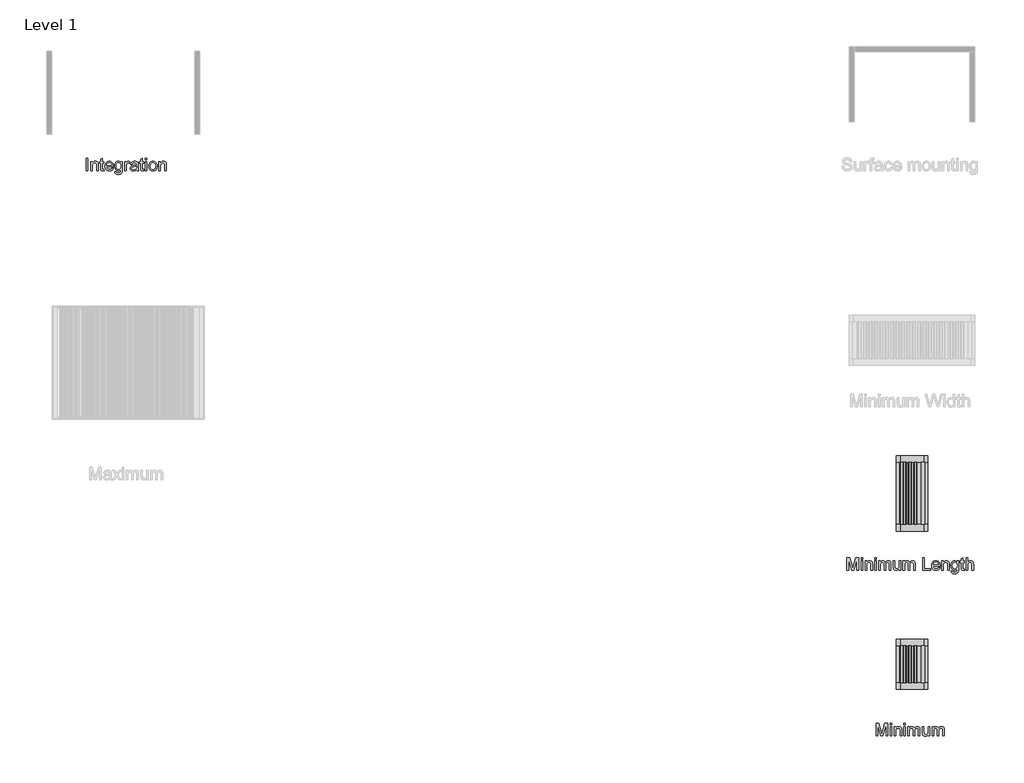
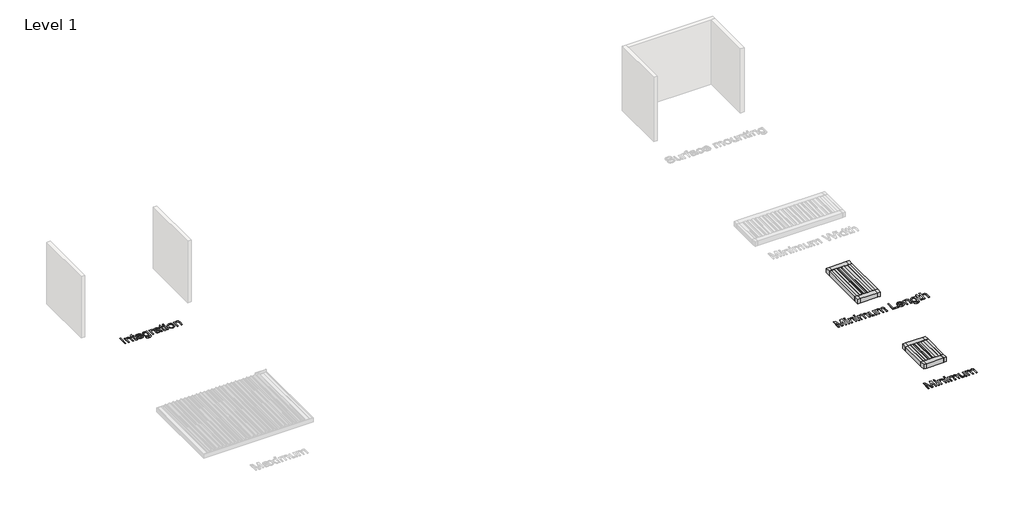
# One storey, part 4 of 12: 5 proxies.
"""IFC4 building model written with IfcOpenShell, lengths in millimetres."""

from ifc_helpers import new_model, si_unit, origin, origin_with_axes, place, context, project, spatial, polyline, outline, extrude, transform, mapped, element, save
from components import generic_models_31180d13, generic_models_b334d1ae

model = new_model("IFC4")

# Units and contexts
model_context = context("Model", 3, world=origin())
ifc_project = project(units=[si_unit("LENGTHUNIT", "METRE", prefix="MILLI")], contexts=[model_context])

# Site, building, storey
site = spatial("IfcSite", under=ifc_project)
building = spatial("IfcBuilding", under=site)
storey = spatial("IfcBuildingStorey", under=building, Name="Level 1", Elevation=0.0)

# Proxies
placement = place(None, origin())
generic_models_shape = generic_models_31180d13(model_context)
element("IfcBuildingElementProxy", 1, Name="Renson_Aero_Skye_Patio covers : Aero Skye - Single", ObjectType="Renson_Aero_Skye_Patio covers : Aero Skye - Single", at=placement, inside=storey, context=model_context, shape_type="MappedRepresentation", body=[
    mapped(generic_models_shape, transform((38903.1736148, -15998.4078371, 0.0), x_axis=(1.0, 0.0, 0.0), y_axis=(0.0, 1.0, 0.0), z_axis=(0.0, 0.0, 1.0))),
])
generic_models_2_shape = generic_models_b334d1ae(model_context)
element("IfcBuildingElementProxy", 2, Name="Renson_Aero_Skye_Patio covers : Aero Skye - Single", ObjectType="Renson_Aero_Skye_Patio covers : Aero Skye - Single", at=placement, inside=storey, context=model_context, shape_type="MappedRepresentation", body=[
    mapped(generic_models_2_shape, transform((38903.1736148, -22798.4078371, 0.0), x_axis=(1.0, 0.0, 0.0), y_axis=(0.0, 1.0, 0.0), z_axis=(0.0, 0.0, 1.0))),
])
element("IfcBuildingElementProxy", 3, Name="500mm Arial", ObjectType="500mm Arial", at=placement, inside=storey, context=model_context, shape_type="SweptSolid", body=[
    extrude(outline(polyline([(6027.8450703, -3154.1927147), (6027.8450703, -2651.911164), (6090.6302642, -2651.911164), (6090.6302642, -3154.1927147), (6027.8450703, -3154.1927147)])), origin_with_axes(), (0.0, 0.0, 1.0), 5.0),
    extrude(outline(polyline([(6208.3525026, -3154.1927147), (6208.3525026, -2785.3297009), (6271.1376965, -2785.3297009), (6271.1376965, -2836.8331802), (6292.9500331, -2810.8668427), (6319.1462969, -2792.3194588), (6349.7264877, -2781.1910284), (6384.6906057, -2777.4815516), (6415.6386785, -2780.4705929), (6443.9809206, -2789.4377165), (6467.6173387, -2803.2639481), (6484.44794, -2820.8303134), (6495.8676103, -2842.0908271), (6503.2712354, -2866.9995038), (6506.5821734, -2927.700033), (6506.5821734, -3154.1927147), (6443.7969796, -3154.1927147), (6443.7969796, -2936.1613189), (6441.9882264, -2903.6957328), (6436.561967, -2880.6111376), (6426.552511, -2864.0717763), (6410.9941683, -2851.2418917), (6391.0518985, -2843.010532), (6367.8906612, -2840.2667455), (6348.8259432, -2841.8072513), (6331.1177901, -2846.4287689), (6314.7662019, -2854.1312982), (6299.7711784, -2864.9148392), (6287.2440301, -2880.0056652), (6278.296067, -2900.6300495), (6272.9272891, -2926.7879922), (6271.1376965, -2958.4794933), (6271.1376965, -3154.1927147), (6208.3525026, -3154.1927147)])), origin_with_axes(), (0.0, 0.0, 1.0), 5.0),
    extrude(outline(polyline([(6726.3303519, -3101.8308441), (6734.1785011, -3156.0321247), (6687.212233, -3162.0408639), (6657.0765663, -3159.4350331), (6634.6051077, -3151.6175407), (6618.7248683, -3139.5694054), (6608.3628587, -3124.2716458), (6602.6606878, -3097.9987399), (6600.7599642, -3053.025166), (6600.7599642, -2848.1148947), (6553.6710688, -2848.1148947), (6553.6710688, -2785.3297009), (6600.7599642, -2785.3297009), (6600.7599642, -2695.6891214), (6663.545158, -2658.7782945), (6663.545158, -2785.3297009), (6726.3303519, -2785.3297009), (6726.3303519, -2848.1148947), (6663.545158, -2848.1148947), (6663.545158, -3051.1857561), (6666.856096, -3083.5593716), (6677.5859875, -3095.0250272), (6698.9844569, -3099.2556701), (6726.3303519, -3101.8308441)])), origin_with_axes(), (0.0, 0.0, 1.0), 5.0),
    extrude(outline(polyline([(7047.3687063, -3044.3186255), (7108.9276268, -3052.1667747), (7099.4891544, -3076.8225326), (7086.7474082, -3098.5505629), (7070.7023883, -3117.3508657), (7051.3540946, -3133.223441), (7028.9017966, -3145.8310635), (7003.5447636, -3154.8365082), (6975.2829958, -3160.239775), (6944.116493, -3162.0408639), (6905.1593225, -3158.9330275), (6870.4481235, -3149.6095182), (6839.9828957, -3134.070336), (6813.7636394, -3112.3154809), (6792.6794025, -3084.9504254), (6777.6192333, -3052.580642), (6768.5831318, -3015.2061305), (6765.571098, -2972.8268911), (6768.6137887, -2929.0106126), (6777.7418607, -2890.3906673), (6792.955314, -2856.9670552), (6814.2541487, -2828.7397763), (6840.4044272, -2806.314303), (6870.172212, -2790.2961078), (6903.557503, -2780.6851907), (6940.5603004, -2777.4815516), (6976.3713133, -2780.6775265), (7008.7564252, -2790.265451), (7037.715636, -2806.2453251), (7063.2489458, -2828.617149), (7084.0917601, -2856.7831142), (7098.9794845, -2890.1454127), (7107.9121192, -2928.7040443), (7110.8896641, -2972.4590091), (7110.5217821, -2989.3815809), (6828.3562918, -2989.3815809), (6831.9929587, -3014.4358776), (6839.2241391, -3036.3785058), (6850.0498332, -3055.2094654), (6864.470041, -3070.9287565), (6881.6876848, -3083.3217812), (6900.905687, -3092.1739417), (6922.1240475, -3097.485238), (6945.3427663, -3099.2556701), (6978.7587142, -3095.975389), (7006.9016868, -3086.1345456), (7029.7716842, -3069.1200033), (7047.3687063, -3044.3186255)]), holes=[polyline([(6828.3562918, -2926.596387), (7048.1044703, -2926.596387), (7039.6125276, -2893.4256938), (7022.9658673, -2869.6973051), (7005.8440261, -2856.8214353), (6986.3616088, -2847.6243854), (6964.5186153, -2842.1061555), (6940.3150457, -2840.2667455), (6897.9932878, -2846.137529), (6879.5800276, -2853.4760084), (6862.9985131, -2863.7498795), (6849.084143, -2876.4839615), (6838.6723161, -2891.2030734), (6831.7630324, -2907.9072153), (6828.3562918, -2926.596387)])]), origin_with_axes(), (0.0, 0.0, 1.0), 5.0),
    extrude(outline(polyline([(7157.9785595, -3185.5853116), (7220.7637534, -3193.4334609), (7227.6921976, -3213.0538339), (7241.1198904, -3226.5428404), (7267.5154236, -3237.0274773), (7302.0656743, -3240.5223562), (7338.9151875, -3236.5676248), (7366.3223961, -3224.7034305), (7385.3296325, -3205.696194), (7396.9792291, -3180.3123364), (7400.3821375, -3153.3036666), (7401.2711857, -3107.1038193), (7380.378554, -3127.7052111), (7357.0640326, -3142.4204909), (7331.3276213, -3151.2496587), (7303.1693203, -3154.1927147), (7268.745529, -3150.7668136), (7238.4374176, -3140.4891104), (7212.2449859, -3123.359605), (7190.1682341, -3099.3782974), (7172.6516862, -3070.6068597), (7160.1398662, -3039.1069639), (7152.6327743, -3004.8786099), (7150.1304103, -2967.9217978), (7154.6216363, -2917.2307246), (7168.0953144, -2870.6170101), (7190.0762636, -2831.1156809), (7204.078772, -2815.1702956), (7220.089303, -2801.7617633), (7237.8511056, -2791.1391707), (7257.1074288, -2783.5516046), (7277.8582726, -2778.9990649), (7300.103637, -2777.4815516), (7329.4652187, -2780.9151169), (7356.1136708, -2791.2158128), (7380.0489931, -2808.3836392), (7401.2711857, -2832.4185963), (7401.2711857, -2785.3297009), (7464.0563795, -2785.3297009), (7464.0563795, -3103.7928814), (7459.7644229, -3177.3232952), (7454.3994771, -3204.6730222), (7446.8885531, -3225.7457628), (7424.7083344, -3257.8587953), (7392.5033314, -3282.4609037), (7372.8178126, -3291.5813115), (7350.9786512, -3298.0958885), (7300.839401, -3303.3075501), (7270.0791012, -3301.4719722), (7242.4228058, -3295.9652386), (7217.8705148, -3286.7873492), (7196.422228, -3273.9383041), (7179.0972853, -3257.4027749), (7166.9150263, -3237.165433), (7159.8754511, -3213.2262786), (7157.9785595, -3185.5853116)]), holes=[polyline([(7212.9156041, -2963.6298412), (7214.5902336, -2994.6737167), (7219.6141221, -3021.2187019), (7227.9872696, -3043.2647969), (7239.7096761, -3060.8120016), (7253.9612713, -3074.1975413), (7269.921985, -3083.7586411), (7287.5918171, -3089.4953009), (7306.9707676, -3091.4075209), (7326.1581129, -3089.5067972), (7343.7436387, -3083.8046263), (7359.7273449, -3074.3010081), (7374.1092317, -3060.9959426), (7385.9925866, -3043.6211825), (7394.4806972, -3021.9084806), (7399.5735635, -2995.8578368), (7401.2711857, -2965.4692512), (7399.5237462, -2936.349092), (7394.2814278, -2911.0380443), (7385.5442304, -2889.5361081), (7373.312154, -2871.8432834), (7358.6198669, -2858.0285481), (7342.5020369, -2848.16088), (7324.9586643, -2842.2402791), (7305.9897489, -2840.2667455), (7287.3388982, -2842.2096223), (7270.1365828, -2848.0382526), (7254.3828028, -2857.7526366), (7240.0775581, -2871.3527741), (7228.1942032, -2888.7773515), (7219.7060926, -2909.9650552), (7214.6132263, -2934.9158851), (7212.9156041, -2963.6298412)])]), origin_with_axes(), (0.0, 0.0, 1.0), 5.0),
    extrude(outline(polyline([(7558.2341703, -3154.1927147), (7558.2341703, -2785.3297009), (7613.1712149, -2785.3297009), (7613.1712149, -2839.8988635), (7633.4660383, -2808.2610119), (7652.1667064, -2789.6216575), (7670.9286881, -2780.5165781), (7691.4074525, -2777.4815516), (7722.6774221, -2782.3253313), (7754.437901, -2796.8566701), (7733.4686273, -2853.1426153), (7711.3957076, -2843.485713), (7689.3227879, -2840.2667455), (7670.5761346, -2843.3630856), (7653.8221754, -2852.652106), (7640.2871836, -2867.4286995), (7631.1974327, -2886.9877589), (7623.5638813, -2922.0591758), (7621.0193641, -2960.3189033), (7621.0193641, -3154.1927147), (7558.2341703, -3154.1927147)])), origin_with_axes(), (0.0, 0.0, 1.0), 5.0),
    extrude(outline(polyline([(8029.1231241, -3107.1038193), (7999.1254131, -3132.8249022), (7968.2386539, -3149.6555034), (7935.7577394, -3158.9445238), (7900.9775624, -3162.0408639), (7873.0223629, -3160.1784613), (7848.5083929, -3154.5912535), (7827.4356524, -3145.2792405), (7809.8041413, -3132.2424223), (7795.8821071, -3116.3085334), (7785.9377969, -3098.3053083), (7779.9712108, -3078.2327469), (7777.9823487, -3056.0908493), (7780.9867184, -3030.0631982), (7789.9998272, -3006.42678), (7803.902701, -2986.1932702), (7821.5763652, -2970.3743445), (7842.3463695, -2958.4181796), (7865.5382636, -2949.7729527), (7919.8621715, -2940.3306482), (7984.0575797, -2930.3978343), (8028.7552421, -2918.7482378), (8029.1231241, -2904.768722), (8024.8005107, -2876.7483767), (8011.8326703, -2858.4155906), (7998.7575311, -2850.4754709), (7982.8313064, -2844.8039568), (7942.4256006, -2840.2667455), (7905.0242644, -2843.2864435), (7878.9046427, -2852.3455377), (7861.0930228, -2869.0994969), (7848.6156918, -2895.2037901), (7785.830498, -2887.3556409), (7796.7290021, -2853.019988), (7812.9924519, -2826.041975), (7836.1383608, -2805.4099265), (7867.6842419, -2790.1121668), (7906.2658661, -2780.6392054), (7950.5190045, -2777.4815516), (7992.9633897, -2780.2713234), (8026.6092638, -2788.6406388), (8051.9777931, -2801.2252688), (8069.5901436, -2816.6609841), (8081.2703969, -2835.7448626), (8088.8426347, -2859.2739819), (8091.9083179, -2914.2110265), (8091.9083179, -2992.3246368), (8095.0966286, -3101.4016484), (8099.8177808, -3128.364333), (8107.6046164, -3154.1927147), (8044.8194226, -3154.1927147), (8034.7639814, -3132.3650497), (8029.1231241, -3107.1038193)]), holes=[polyline([(8029.1231241, -2981.5334316), (7986.939322, -2991.9874117), (7927.8329481, -3000.7859227), (7873.8156085, -3010.9639913), (7859.7594506, -3017.9230923), (7849.3514558, -3027.518681), (7842.9135209, -3039.0149934), (7840.7675426, -3051.6762654), (7845.4427096, -3070.3462766), (7859.4682107, -3085.6440363), (7882.5374774, -3095.8527616), (7914.3439416, -3099.2556701), (7948.0664578, -3095.5002081), (7977.8648994, -3084.233822), (8002.0224838, -3067.6331469), (8018.8224282, -3047.8748181), (8026.2720386, -3027.518681), (8028.7552421, -2999.3143947), (8029.1231241, -2981.5334316)])]), origin_with_axes(), (0.0, 0.0, 1.0), 5.0),
    extrude(outline(polyline([(8311.6564964, -3101.8308441), (8319.5046456, -3156.0321247), (8272.5383776, -3162.0408639), (8242.4027108, -3159.4350331), (8219.9312523, -3151.6175407), (8204.0510128, -3139.5694054), (8193.6890033, -3124.2716458), (8187.9868324, -3097.9987399), (8186.0861087, -3053.025166), (8186.0861087, -2848.1148947), (8138.9972133, -2848.1148947), (8138.9972133, -2785.3297009), (8186.0861087, -2785.3297009), (8186.0861087, -2695.6891214), (8248.8713026, -2658.7782945), (8248.8713026, -2785.3297009), (8311.6564964, -2785.3297009), (8311.6564964, -2848.1148947), (8248.8713026, -2848.1148947), (8248.8713026, -3051.1857561), (8252.1822405, -3083.5593716), (8262.912132, -3095.0250272), (8284.3106014, -3099.2556701), (8311.6564964, -3101.8308441)])), origin_with_axes(), (0.0, 0.0, 1.0), 5.0),
    extrude(outline(polyline([(8374.4416902, -2714.6963578), (8374.4416902, -2651.911164), (8437.2268841, -2651.911164), (8437.2268841, -2714.6963578), (8374.4416902, -2714.6963578)])), origin_with_axes(), (0.0, 0.0, 1.0), 5.0),
    extrude(outline(polyline([(8374.4416902, -3154.1927147), (8374.4416902, -2785.3297009), (8437.2268841, -2785.3297009), (8437.2268841, -3154.1927147), (8374.4416902, -3154.1927147)])), origin_with_axes(), (0.0, 0.0, 1.0), 5.0),
    extrude(outline(polyline([(8515.7083764, -2969.7612078), (8519.1036206, -2921.9901979), (8529.2893534, -2880.8257355), (8546.2655746, -2846.2678205), (8570.0322843, -2818.3164531), (8593.9599424, -2800.4511837), (8620.370804, -2787.690277), (8649.2648691, -2780.033733), (8680.6421376, -2777.4815516), (8715.2805267, -2780.5893881), (8746.6003136, -2789.9128974), (8774.6014984, -2805.4520796), (8799.284081, -2827.2069347), (8819.4294523, -2854.4416986), (8833.8190033, -2886.4206075), (8842.4527339, -2923.1436612), (8845.3306441, -2964.6108599), (8840.2416098, -3028.0398472), (8833.880317, -3054.0751626), (8824.974507, -3076.3243591), (8813.6353109, -3095.5423612), (8799.9738597, -3112.4840935), (8783.9901535, -3127.149556), (8765.6841921, -3139.5387486), (8724.9565896, -3156.4153351), (8680.6421376, -3162.0408639), (8645.4979107, -3158.9445238), (8613.8868839, -3149.6555034), (8585.809057, -3134.1738028), (8561.2644301, -3112.4994219), (8541.3336566, -3085.0002428), (8527.0973898, -3052.0441474), (8518.5556297, -3013.6311357), (8515.7083764, -2969.7612078)]), holes=[polyline([(8578.4935702, -2969.6385805), (8580.3099876, -3000.0923119), (8585.7592396, -3026.4610203), (8594.8413264, -3048.7447057), (8607.5562479, -3066.9433682), (8623.0226201, -3081.0800003), (8640.3590591, -3091.1775946), (8659.5655649, -3097.2361512), (8680.6421376, -3099.2556701), (8701.6114113, -3097.2246549), (8720.741275, -3091.1316094), (8738.0317288, -3080.9765335), (8753.4827726, -3066.7594272), (8766.1976941, -3048.3806558), (8775.2797808, -3025.7405847), (8780.7290329, -2998.8392138), (8782.5454502, -2967.6765432), (8780.7175366, -2938.188502), (8775.2337956, -2912.5095723), (8766.0942273, -2890.6397541), (8753.2988316, -2872.5790474), (8737.7903062, -2858.4424153), (8720.5113488, -2848.344821), (8701.4619592, -2842.2862644), (8680.6421376, -2840.2667455), (8659.5655649, -2842.2786002), (8640.3590591, -2848.3141641), (8623.0226201, -2858.3734374), (8607.5562479, -2872.4564201), (8594.8413264, -2890.6014331), (8585.7592396, -2912.8467975), (8580.3099876, -2939.1925133), (8578.4935702, -2969.6385805)])]), origin_with_axes(), (0.0, 0.0, 1.0), 5.0),
    extrude(outline(polyline([(8915.9639871, -3154.1927147), (8915.9639871, -2785.3297009), (8978.749181, -2785.3297009), (8978.749181, -2836.8331802), (9000.5615176, -2810.8668427), (9026.7577814, -2792.3194588), (9057.3379722, -2781.1910284), (9092.3020902, -2777.4815516), (9123.250163, -2780.4705929), (9151.5924051, -2789.4377165), (9175.2288232, -2803.2639481), (9192.0594245, -2820.8303134), (9203.4790948, -2842.0908271), (9210.8827199, -2866.9995038), (9214.1936579, -2927.700033), (9214.1936579, -3154.1927147), (9151.4084641, -3154.1927147), (9151.4084641, -2936.1613189), (9149.5997109, -2903.6957328), (9144.1734515, -2880.6111376), (9134.1639955, -2864.0717763), (9118.6056528, -2851.2418917), (9098.663383, -2843.010532), (9075.5021457, -2840.2667455), (9056.4374277, -2841.8072513), (9038.7292746, -2846.4287689), (9022.3776864, -2854.1312982), (9007.3826629, -2864.9148392), (8994.8555146, -2880.0056652), (8985.9075515, -2900.6300495), (8980.5387736, -2926.7879922), (8978.749181, -2958.4794933), (8978.749181, -3154.1927147), (8915.9639871, -3154.1927147)])), origin_with_axes(), (0.0, 0.0, 1.0), 5.0),
])
element("IfcBuildingElementProxy", 4, Name="500mm Arial", ObjectType="500mm Arial", at=placement, inside=storey, context=model_context, shape_type="SweptSolid", body=[
    extrude(outline(polyline([(37464.7639674, -25654.1927147), (37464.7639674, -25151.911164), (37572.7986467, -25151.911164), (37675.5603507, -25505.9362707), (37696.2843697, -25579.8805517), (37718.7251715, -25499.8049041), (37819.7700928, -25151.911164), (37927.804772, -25151.911164), (37927.804772, -25654.1927147), (37865.0195782, -25654.1927147), (37865.0195782, -25214.6963578), (37738.8360539, -25654.1927147), (37653.7326856, -25654.1927147), (37527.5491613, -25214.6963578), (37527.5491613, -25654.1927147), (37464.7639674, -25654.1927147)])), origin_with_axes(), (0.0, 0.0, 1.0), 5.0),
    extrude(outline(polyline([(38029.830712, -25654.1927147), (38029.830712, -25285.3297009), (38092.6159059, -25285.3297009), (38092.6159059, -25654.1927147), (38029.830712, -25654.1927147)])), origin_with_axes(), (0.0, 0.0, 1.0), 5.0),
    extrude(outline(polyline([(38029.830712, -25214.6963578), (38029.830712, -25151.911164), (38092.6159059, -25151.911164), (38092.6159059, -25214.6963578), (38029.830712, -25214.6963578)])), origin_with_axes(), (0.0, 0.0, 1.0), 5.0),
    extrude(outline(polyline([(38186.7936966, -25654.1927147), (38186.7936966, -25285.3297009), (38249.5788905, -25285.3297009), (38249.5788905, -25336.8331802), (38271.3912271, -25310.8668427), (38297.5874909, -25292.3194588), (38328.1676817, -25281.1910284), (38363.1317997, -25277.4815516), (38394.0798725, -25280.4705929), (38422.4221146, -25289.4377165), (38446.0585328, -25303.2639481), (38462.889134, -25320.8303134), (38474.3088043, -25342.0908271), (38481.7124294, -25366.9995038), (38485.0233674, -25427.700033), (38485.0233674, -25654.1927147), (38422.2381736, -25654.1927147), (38422.2381736, -25436.1613189), (38420.4294204, -25403.6957328), (38415.003161, -25380.6111376), (38404.993705, -25364.0717763), (38389.4353623, -25351.2418917), (38369.4930925, -25343.010532), (38346.3318552, -25340.2667455), (38327.2671372, -25341.8072513), (38309.5589841, -25346.4287689), (38293.2073959, -25354.1312982), (38278.2123725, -25364.9148392), (38265.6852241, -25380.0056652), (38256.737261, -25400.6300495), (38251.3684831, -25426.7879922), (38249.5788905, -25458.4794933), (38249.5788905, -25654.1927147), (38186.7936966, -25654.1927147)])), origin_with_axes(), (0.0, 0.0, 1.0), 5.0),
    extrude(outline(polyline([(38571.3530089, -25214.6963578), (38571.3530089, -25151.911164), (38634.1382028, -25151.911164), (38634.1382028, -25214.6963578), (38571.3530089, -25214.6963578)])), origin_with_axes(), (0.0, 0.0, 1.0), 5.0),
    extrude(outline(polyline([(38571.3530089, -25654.1927147), (38571.3530089, -25285.3297009), (38634.1382028, -25285.3297009), (38634.1382028, -25654.1927147), (38571.3530089, -25654.1927147)])), origin_with_axes(), (0.0, 0.0, 1.0), 5.0),
    extrude(outline(polyline([(38728.3159935, -25654.1927147), (38728.3159935, -25285.3297009), (38791.1011874, -25285.3297009), (38791.1011874, -25346.0302301), (38809.9857965, -25318.1478405), (38834.2660082, -25296.3048471), (38863.1140879, -25282.1873755), (38895.7023014, -25277.4815516), (38930.6204341, -25282.279346), (38958.6101225, -25296.6727291), (38979.5180826, -25319.711339), (38993.1910301, -25350.444814), (39016.0763559, -25318.5233867), (39042.1806491, -25295.7223672), (39071.5039098, -25282.0417555), (39104.046138, -25277.4815516), (39129.1809089, -25279.3784432), (39151.2423323, -25285.0691178), (39170.2304082, -25294.5535755), (39186.1451365, -25307.8318163), (39198.7259344, -25325.0571243), (39207.7122185, -25346.3827837), (39213.103989, -25371.8087945), (39214.9012458, -25401.3351567), (39214.9012458, -25654.1927147), (39152.116052, -25654.1927147), (39152.116052, -25428.3131697), (39150.6598524, -25396.9972148), (39146.2912537, -25375.8899854), (39138.1058793, -25361.4352886), (39125.1993527, -25350.076932), (39108.5986776, -25342.7192921), (39089.3308581, -25340.2667455), (39071.5383987, -25341.8379082), (39055.317102, -25346.5513962), (39040.666968, -25354.4072097), (39027.5879966, -25365.4053485), (39016.8312804, -25379.8677094), (39009.1479116, -25398.1161892), (39004.5378904, -25420.1507879), (39003.0012166, -25445.9715054), (39003.0012166, -25654.1927147), (38940.2160228, -25654.1927147), (38940.2160228, -25421.3234118), (38936.5831881, -25385.8227992), (38925.684684, -25360.5002552), (38917.257887, -25351.6480947), (38906.508835, -25345.3251229), (38878.0439656, -25340.2667455), (38853.8557244, -25343.6389971), (38831.5682069, -25353.755752), (38813.1741071, -25370.3717554), (38800.6661193, -25393.2417528), (38793.4924204, -25424.9715749), (38791.1011874, -25468.1670525), (38791.1011874, -25654.1927147), (38728.3159935, -25654.1927147)])), origin_with_axes(), (0.0, 0.0, 1.0), 5.0),
    extrude(outline(polyline([(39544.5235135, -25654.1927147), (39544.5235135, -25590.7943842), (39521.8068003, -25621.9647191), (39495.3499535, -25644.229244), (39465.1529731, -25657.587959), (39431.215859, -25662.0408639), (39400.6356682, -25658.913867), (39372.1707988, -25649.5328761), (39348.2891259, -25635.430733), (39331.4585246, -25618.1402792), (39320.1308249, -25597.1403486), (39312.7578566, -25571.9097751), (39309.0790366, -25513.5391652), (39309.0790366, -25285.3297009), (39371.8642304, -25285.3297009), (39371.8642304, -25483.9859783), (39375.6656777, -25547.9974454), (39384.8167424, -25569.3499296), (39400.4977124, -25585.5827226), (39421.6662555, -25595.8374332), (39447.2800395, -25599.2556701), (39474.3653514, -25595.7607911), (39499.7032238, -25585.2761543), (39520.5958554, -25568.7674497), (39534.345445, -25547.2003678), (39541.9789964, -25517.6625093), (39544.5235135, -25477.241475), (39544.5235135, -25285.3297009), (39607.3087074, -25285.3297009), (39607.3087074, -25654.1927147), (39544.5235135, -25654.1927147)])), origin_with_axes(), (0.0, 0.0, 1.0), 5.0),
    extrude(outline(polyline([(39693.6383489, -25654.1927147), (39693.6383489, -25285.3297009), (39756.4235427, -25285.3297009), (39756.4235427, -25346.0302301), (39775.3081518, -25318.1478405), (39799.5883635, -25296.3048471), (39828.4364433, -25282.1873755), (39861.0246567, -25277.4815516), (39895.9427894, -25282.279346), (39923.9324779, -25296.6727291), (39944.8404379, -25319.711339), (39958.5133854, -25350.444814), (39981.3987112, -25318.5233867), (40007.5030044, -25295.7223672), (40036.8262651, -25282.0417555), (40069.3684933, -25277.4815516), (40094.5032642, -25279.3784432), (40116.5646876, -25285.0691178), (40135.5527635, -25294.5535755), (40151.4674919, -25307.8318163), (40164.0482897, -25325.0571243), (40173.0345739, -25346.3827837), (40178.4263443, -25371.8087945), (40180.2236012, -25401.3351567), (40180.2236012, -25654.1927147), (40117.4384073, -25654.1927147), (40117.4384073, -25428.3131697), (40115.9822078, -25396.9972148), (40111.6136091, -25375.8899854), (40103.4282347, -25361.4352886), (40090.521708, -25350.076932), (40073.921033, -25342.7192921), (40054.6532135, -25340.2667455), (40036.8607541, -25341.8379082), (40020.6394574, -25346.5513962), (40005.9893233, -25354.4072097), (39992.910352, -25365.4053485), (39982.1536357, -25379.8677094), (39974.470267, -25398.1161892), (39969.8602457, -25420.1507879), (39968.323572, -25445.9715054), (39968.323572, -25654.1927147), (39905.5383781, -25654.1927147), (39905.5383781, -25421.3234118), (39901.9055434, -25385.8227992), (39891.0070393, -25360.5002552), (39882.5802424, -25351.6480947), (39871.8311903, -25345.3251229), (39843.3663209, -25340.2667455), (39819.1780797, -25343.6389971), (39796.8905622, -25353.755752), (39778.4964624, -25370.3717554), (39765.9884746, -25393.2417528), (39758.8147757, -25424.9715749), (39756.4235427, -25468.1670525), (39756.4235427, -25654.1927147), (39693.6383489, -25654.1927147)])), origin_with_axes(), (0.0, 0.0, 1.0), 5.0),
])
element("IfcBuildingElementProxy", 5, Name="500mm Arial", ObjectType="500mm Arial", at=placement, inside=storey, context=model_context, shape_type="SweptSolid", body=[
    extrude(outline(polyline([(36307.161956, -19054.1927147), (36307.161956, -18551.911164), (36415.1966352, -18551.911164), (36517.9583392, -18905.9362707), (36538.6823583, -18979.8805517), (36561.12316, -18899.8049041), (36662.1680813, -18551.911164), (36770.2027606, -18551.911164), (36770.2027606, -19054.1927147), (36707.4175667, -19054.1927147), (36707.4175667, -18614.6963578), (36581.2340424, -19054.1927147), (36496.1306741, -19054.1927147), (36369.9471498, -18614.6963578), (36369.9471498, -19054.1927147), (36307.161956, -19054.1927147)])), origin_with_axes(), (0.0, 0.0, 1.0), 5.0),
    extrude(outline(polyline([(36872.2287006, -19054.1927147), (36872.2287006, -18685.3297009), (36935.0138944, -18685.3297009), (36935.0138944, -19054.1927147), (36872.2287006, -19054.1927147)])), origin_with_axes(), (0.0, 0.0, 1.0), 5.0),
    extrude(outline(polyline([(36872.2287006, -18614.6963578), (36872.2287006, -18551.911164), (36935.0138944, -18551.911164), (36935.0138944, -18614.6963578), (36872.2287006, -18614.6963578)])), origin_with_axes(), (0.0, 0.0, 1.0), 5.0),
    extrude(outline(polyline([(37029.1916852, -19054.1927147), (37029.1916852, -18685.3297009), (37091.976879, -18685.3297009), (37091.976879, -18736.8331802), (37113.7892156, -18710.8668427), (37139.9854794, -18692.3194588), (37170.5656702, -18681.1910284), (37205.5297882, -18677.4815516), (37236.477861, -18680.4705929), (37264.8201031, -18689.4377165), (37288.4565213, -18703.2639481), (37305.2871225, -18720.8303134), (37316.7067928, -18742.0908271), (37324.110418, -18766.9995038), (37327.4213559, -18827.700033), (37327.4213559, -19054.1927147), (37264.6361621, -19054.1927147), (37264.6361621, -18836.1613189), (37262.8274089, -18803.6957328), (37257.4011495, -18780.6111376), (37247.3916935, -18764.0717763), (37231.8333508, -18751.2418917), (37211.891081, -18743.010532), (37188.7298437, -18740.2667455), (37169.6651258, -18741.8072513), (37151.9569726, -18746.4287689), (37135.6053844, -18754.1312982), (37120.610361, -18764.9148392), (37108.0832126, -18780.0056652), (37099.1352495, -18800.6300495), (37093.7664716, -18826.7879922), (37091.976879, -18858.4794933), (37091.976879, -19054.1927147), (37029.1916852, -19054.1927147)])), origin_with_axes(), (0.0, 0.0, 1.0), 5.0),
    extrude(outline(polyline([(37413.7509975, -18614.6963578), (37413.7509975, -18551.911164), (37476.5361913, -18551.911164), (37476.5361913, -18614.6963578), (37413.7509975, -18614.6963578)])), origin_with_axes(), (0.0, 0.0, 1.0), 5.0),
    extrude(outline(polyline([(37413.7509975, -19054.1927147), (37413.7509975, -18685.3297009), (37476.5361913, -18685.3297009), (37476.5361913, -19054.1927147), (37413.7509975, -19054.1927147)])), origin_with_axes(), (0.0, 0.0, 1.0), 5.0),
    extrude(outline(polyline([(37570.7139821, -19054.1927147), (37570.7139821, -18685.3297009), (37633.4991759, -18685.3297009), (37633.4991759, -18746.0302301), (37652.383785, -18718.1478405), (37676.6639967, -18696.3048471), (37705.5120765, -18682.1873755), (37738.1002899, -18677.4815516), (37773.0184226, -18682.279346), (37801.008111, -18696.6727291), (37821.9160711, -18719.711339), (37835.5890186, -18750.444814), (37858.4743444, -18718.5233867), (37884.5786376, -18695.7223672), (37913.9018983, -18682.0417555), (37946.4441265, -18677.4815516), (37971.5788974, -18679.3784432), (37993.6403208, -18685.0691178), (38012.6283967, -18694.5535755), (38028.5431251, -18707.8318163), (38041.1239229, -18725.0571243), (38050.110207, -18746.3827837), (38055.5019775, -18771.8087945), (38057.2992343, -18801.3351567), (38057.2992343, -19054.1927147), (37994.5140405, -19054.1927147), (37994.5140405, -18828.3131697), (37993.0578409, -18796.9972148), (37988.6892422, -18775.8899854), (37980.5038679, -18761.4352886), (37967.5973412, -18750.076932), (37950.9966662, -18742.7192921), (37931.7288467, -18740.2667455), (37913.9363872, -18741.8379082), (37897.7150905, -18746.5513962), (37883.0649565, -18754.4072097), (37869.9859851, -18765.4053485), (37859.2292689, -18779.8677094), (37851.5459001, -18798.1161892), (37846.9358789, -18820.1507879), (37845.3992051, -18845.9715054), (37845.3992051, -19054.1927147), (37782.6140113, -19054.1927147), (37782.6140113, -18821.3234118), (37778.9811766, -18785.8227992), (37768.0826725, -18760.5002552), (37759.6558755, -18751.6480947), (37748.9068235, -18745.3251229), (37720.4419541, -18740.2667455), (37696.2537129, -18743.6389971), (37673.9661954, -18753.755752), (37655.5720956, -18770.3717554), (37643.0641078, -18793.2417528), (37635.8904089, -18824.9715749), (37633.4991759, -18868.1670525), (37633.4991759, -19054.1927147), (37570.7139821, -19054.1927147)])), origin_with_axes(), (0.0, 0.0, 1.0), 5.0),
    extrude(outline(polyline([(38386.921502, -19054.1927147), (38386.921502, -18990.7943842), (38364.2047888, -19021.9647191), (38337.747942, -19044.229244), (38307.5509616, -19057.587959), (38273.6138475, -19062.0408639), (38243.0336567, -19058.913867), (38214.5687873, -19049.5328761), (38190.6871144, -19035.430733), (38173.8565132, -19018.1402792), (38162.5288134, -18997.1403486), (38155.1558451, -18971.9097751), (38151.4770251, -18913.5391652), (38151.4770251, -18685.3297009), (38214.262219, -18685.3297009), (38214.262219, -18883.9859783), (38218.0636662, -18947.9974454), (38227.2147309, -18969.3499296), (38242.8957009, -18985.5827226), (38264.0642441, -18995.8374332), (38289.678028, -18999.2556701), (38316.7633399, -18995.7607911), (38342.1012123, -18985.2761543), (38362.9938439, -18968.7674497), (38376.7434335, -18947.2003678), (38384.3769849, -18917.6625093), (38386.921502, -18877.241475), (38386.921502, -18685.3297009), (38449.7066959, -18685.3297009), (38449.7066959, -19054.1927147), (38386.921502, -19054.1927147)])), origin_with_axes(), (0.0, 0.0, 1.0), 5.0),
    extrude(outline(polyline([(38536.0363374, -19054.1927147), (38536.0363374, -18685.3297009), (38598.8215312, -18685.3297009), (38598.8215312, -18746.0302301), (38617.7061403, -18718.1478405), (38641.986352, -18696.3048471), (38670.8344318, -18682.1873755), (38703.4226452, -18677.4815516), (38738.3407779, -18682.279346), (38766.3304664, -18696.6727291), (38787.2384264, -18719.711339), (38800.9113739, -18750.444814), (38823.7966997, -18718.5233867), (38849.900993, -18695.7223672), (38879.2242537, -18682.0417555), (38911.7664818, -18677.4815516), (38936.9012527, -18679.3784432), (38958.9626761, -18685.0691178), (38977.950752, -18694.5535755), (38993.8654804, -18707.8318163), (39006.4462782, -18725.0571243), (39015.4325624, -18746.3827837), (39020.8243329, -18771.8087945), (39022.6215897, -18801.3351567), (39022.6215897, -19054.1927147), (38959.8363958, -19054.1927147), (38959.8363958, -18828.3131697), (38958.3801963, -18796.9972148), (38954.0115976, -18775.8899854), (38945.8262232, -18761.4352886), (38932.9196965, -18750.076932), (38916.3190215, -18742.7192921), (38897.051202, -18740.2667455), (38879.2587426, -18741.8379082), (38863.0374459, -18746.5513962), (38848.3873118, -18754.4072097), (38835.3083405, -18765.4053485), (38824.5516242, -18779.8677094), (38816.8682555, -18798.1161892), (38812.2582342, -18820.1507879), (38810.7215605, -18845.9715054), (38810.7215605, -19054.1927147), (38747.9363666, -19054.1927147), (38747.9363666, -18821.3234118), (38744.3035319, -18785.8227992), (38733.4050278, -18760.5002552), (38724.9782309, -18751.6480947), (38714.2291788, -18745.3251229), (38685.7643094, -18740.2667455), (38661.5760683, -18743.6389971), (38639.2885507, -18753.755752), (38620.894451, -18770.3717554), (38608.3864631, -18793.2417528), (38601.2127642, -18824.9715749), (38598.8215312, -18868.1670525), (38598.8215312, -19054.1927147), (38536.0363374, -19054.1927147)])), origin_with_axes(), (0.0, 0.0, 1.0), 5.0),
    extrude(outline(polyline([(39320.8512604, -19054.1927147), (39320.8512604, -18551.911164), (39383.6364543, -18551.911164), (39383.6364543, -18991.4075209), (39634.7772297, -18991.4075209), (39634.7772297, -19054.1927147), (39320.8512604, -19054.1927147)])), origin_with_axes(), (0.0, 0.0, 1.0), 5.0),
    extrude(outline(polyline([(39955.8155841, -18944.3186255), (40017.3745046, -18952.1667747), (40007.9360322, -18976.8225326), (39995.194286, -18998.5505629), (39979.1492661, -19017.3508657), (39959.8009724, -19033.223441), (39937.3486744, -19045.8310635), (39911.9916414, -19054.8365082), (39883.7298736, -19060.239775), (39852.5633708, -19062.0408639), (39813.6062004, -19058.9330275), (39778.8950013, -19049.6095182), (39748.4297736, -19034.070336), (39722.2105172, -19012.3154809), (39701.1262803, -18984.9504254), (39686.0661112, -18952.580642), (39677.0300097, -18915.2061305), (39674.0179758, -18872.8268911), (39677.0606665, -18829.0106126), (39686.1887385, -18790.3906673), (39701.4021918, -18756.9670552), (39722.7010265, -18728.7397763), (39748.851305, -18706.314303), (39778.6190898, -18690.2961078), (39812.0043808, -18680.6851907), (39849.0071782, -18677.4815516), (39884.8181912, -18680.6775265), (39917.203303, -18690.265451), (39946.1625139, -18706.2453251), (39971.6958236, -18728.617149), (39992.5386379, -18756.7831142), (40007.4263624, -18790.1454127), (40016.3589971, -18828.7040443), (40019.336542, -18872.4590091), (40018.96866, -18889.3815809), (39736.8031697, -18889.3815809), (39740.4398365, -18914.4358776), (39747.6710169, -18936.3785058), (39758.4967111, -18955.2094654), (39772.9169189, -18970.9287565), (39790.1345626, -18983.3217812), (39809.3525648, -18992.1739417), (39830.5709253, -18997.485238), (39853.7896441, -18999.2556701), (39887.205592, -18995.975389), (39915.3485647, -18986.1345456), (39938.218562, -18969.1200033), (39955.8155841, -18944.3186255)]), holes=[polyline([(39736.8031697, -18826.596387), (39956.5513481, -18826.596387), (39948.0594054, -18793.4256938), (39931.4127451, -18769.6973051), (39914.2909039, -18756.8214353), (39894.8084866, -18747.6243854), (39872.9654931, -18742.1061555), (39848.7619235, -18740.2667455), (39806.4401657, -18746.137529), (39788.0269054, -18753.4760084), (39771.4453909, -18763.7498795), (39757.5310208, -18776.4839615), (39747.1191939, -18791.2030734), (39740.2099102, -18807.9072153), (39736.8031697, -18826.596387)])]), origin_with_axes(), (0.0, 0.0, 1.0), 5.0),
    extrude(outline(polyline([(40082.1217358, -19054.1927147), (40082.1217358, -18685.3297009), (40144.9069296, -18685.3297009), (40144.9069296, -18736.8331802), (40166.7192663, -18710.8668427), (40192.91553, -18692.3194588), (40223.4957209, -18681.1910284), (40258.4598388, -18677.4815516), (40289.4079117, -18680.4705929), (40317.7501537, -18689.4377165), (40341.3865719, -18703.2639481), (40358.2171732, -18720.8303134), (40369.6368434, -18742.0908271), (40377.0404686, -18766.9995038), (40380.3514066, -18827.700033), (40380.3514066, -19054.1927147), (40317.5662127, -19054.1927147), (40317.5662127, -18836.1613189), (40315.7574596, -18803.6957328), (40310.3312001, -18780.6111376), (40300.3217442, -18764.0717763), (40284.7634015, -18751.2418917), (40264.8211317, -18743.010532), (40241.6598944, -18740.2667455), (40222.5951764, -18741.8072513), (40204.8870233, -18746.4287689), (40188.535435, -18754.1312982), (40173.5404116, -18764.9148392), (40161.0132632, -18780.0056652), (40152.0653001, -18800.6300495), (40146.6965223, -18826.7879922), (40144.9069296, -18858.4794933), (40144.9069296, -19054.1927147), (40082.1217358, -19054.1927147)])), origin_with_axes(), (0.0, 0.0, 1.0), 5.0),
    extrude(outline(polyline([(40450.9847496, -19085.5853116), (40513.7699435, -19093.4334609), (40520.6983877, -19113.0538339), (40534.1260805, -19126.5428404), (40560.5216137, -19137.0274773), (40595.0718644, -19140.5223562), (40631.9213776, -19136.5676248), (40659.3285862, -19124.7034305), (40678.3358226, -19105.696194), (40689.9854192, -19080.3123364), (40693.3883276, -19053.3036666), (40694.2773758, -19007.1038193), (40673.3847441, -19027.7052111), (40650.0702227, -19042.4204909), (40624.3338114, -19051.2496587), (40596.1755104, -19054.1927147), (40561.7517191, -19050.7668136), (40531.4436077, -19040.4891104), (40505.251176, -19023.359605), (40483.1744242, -18999.3782974), (40465.6578763, -18970.6068597), (40453.1460564, -18939.1069639), (40445.6389644, -18904.8786099), (40443.1366004, -18867.9217978), (40447.6278264, -18817.2307246), (40461.1015045, -18770.6170101), (40483.0824537, -18731.1156809), (40497.0849622, -18715.1702956), (40513.0954931, -18701.7617633), (40530.8572957, -18691.1391707), (40550.1136189, -18683.5516046), (40570.8644627, -18678.9990649), (40593.1098271, -18677.4815516), (40622.4714088, -18680.9151169), (40649.1198609, -18691.2158128), (40673.0551832, -18708.3836392), (40694.2773758, -18732.4185963), (40694.2773758, -18685.3297009), (40757.0625696, -18685.3297009), (40757.0625696, -19003.7928814), (40752.770613, -19077.3232952), (40747.4056672, -19104.6730222), (40739.8947432, -19125.7457628), (40717.7145246, -19157.8587953), (40685.5095216, -19182.4609037), (40665.8240027, -19191.5813115), (40643.9848414, -19198.0958885), (40593.8455911, -19203.3075501), (40563.0852913, -19201.4719722), (40535.4289959, -19195.9652386), (40510.8767049, -19186.7873492), (40489.4284181, -19173.9383041), (40472.1034754, -19157.4027749), (40459.9212164, -19137.165433), (40452.8816412, -19113.2262786), (40450.9847496, -19085.5853116)]), holes=[polyline([(40505.9217942, -18863.6298412), (40507.5964237, -18894.6737167), (40512.6203122, -18921.2187019), (40520.9934597, -18943.2647969), (40532.7158662, -18960.8120016), (40546.9674614, -18974.1975413), (40562.9281751, -18983.7586411), (40580.5980072, -18989.4953009), (40599.9769577, -18991.4075209), (40619.164303, -18989.5067972), (40636.7498288, -18983.8046263), (40652.733535, -18974.3010081), (40667.1154218, -18960.9959426), (40678.9987767, -18943.6211825), (40687.4868873, -18921.9084806), (40692.5797537, -18895.8578368), (40694.2773758, -18865.4692512), (40692.5299363, -18836.349092), (40687.2876179, -18811.0380443), (40678.5504205, -18789.5361081), (40666.3183441, -18771.8432834), (40651.626057, -18758.0285481), (40635.508227, -18748.16088), (40617.9648544, -18742.2402791), (40598.995939, -18740.2667455), (40580.3450883, -18742.2096223), (40563.1427729, -18748.0382526), (40547.3889929, -18757.7526366), (40533.0837482, -18771.3527741), (40521.2003934, -18788.7773515), (40512.7122827, -18809.9650552), (40507.6194164, -18834.9158851), (40505.9217942, -18863.6298412)])]), origin_with_axes(), (0.0, 0.0, 1.0), 5.0),
    extrude(outline(polyline([(40984.6588973, -19001.8308441), (40992.5070465, -19056.0321247), (40945.5407785, -19062.0408639), (40915.4051117, -19059.4350331), (40892.9336532, -19051.6175407), (40877.0534137, -19039.5694054), (40866.6914042, -19024.2716458), (40860.9892333, -18997.9987399), (40859.0885096, -18953.025166), (40859.0885096, -18748.1148947), (40811.9996142, -18748.1148947), (40811.9996142, -18685.3297009), (40859.0885096, -18685.3297009), (40859.0885096, -18595.6891214), (40921.8737035, -18558.7782945), (40921.8737035, -18685.3297009), (40984.6588973, -18685.3297009), (40984.6588973, -18748.1148947), (40921.8737035, -18748.1148947), (40921.8737035, -18951.1857561), (40925.1846414, -18983.5593716), (40935.9145329, -18995.0250272), (40957.3130023, -18999.2556701), (40984.6588973, -19001.8308441)])), origin_with_axes(), (0.0, 0.0, 1.0), 5.0),
    extrude(outline(polyline([(41047.4440911, -19054.1927147), (41047.4440911, -18551.911164), (41110.229285, -18551.911164), (41110.229285, -18736.5879255), (41133.2908876, -18710.728887), (41159.1882472, -18692.2581451), (41187.9213638, -18681.1757), (41219.4902376, -18677.4815516), (41257.4127399, -18681.5129252), (41290.0009533, -18693.6070458), (41315.6607225, -18712.8135516), (41332.7978921, -18738.1820809), (41342.4547944, -18773.0388999), (41345.6737619, -18820.7102751), (41345.6737619, -19054.1927147), (41282.8885681, -19054.1927147), (41282.8885681, -18827.2095237), (41277.8915043, -18787.9074639), (41271.6451746, -18772.9009441), (41262.900313, -18760.9907646), (41251.8638531, -18751.9240062), (41238.7427286, -18745.4477503), (41206.2464857, -18740.2667455), (41179.7129968, -18743.7616244), (41154.8043201, -18754.2462613), (41134.1722715, -18770.7089806), (41120.4686672, -18792.1381068), (41112.7891305, -18820.6183046), (41110.229285, -18858.2342386), (41110.229285, -19054.1927147), (41047.4440911, -19054.1927147)])), origin_with_axes(), (0.0, 0.0, 1.0), 5.0),
])

save(model, "model.ifc")
